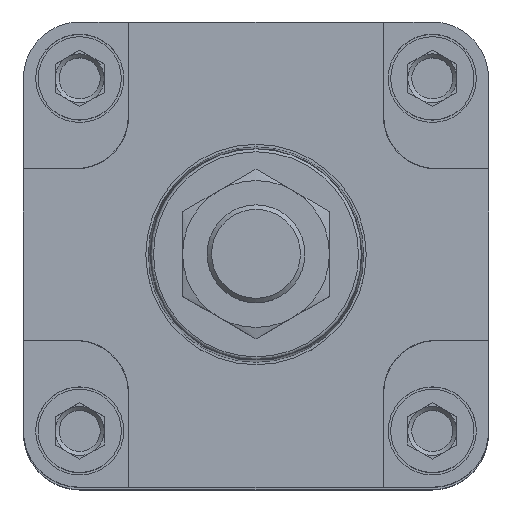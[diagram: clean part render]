
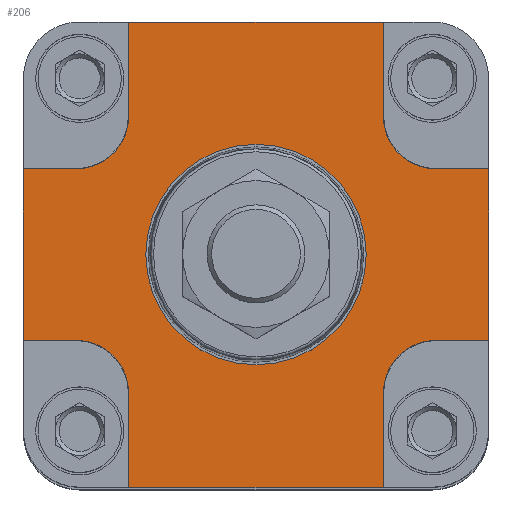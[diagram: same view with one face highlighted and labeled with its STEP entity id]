
A CAD part, top view. The second image highlights one B-rep face of the part: STEP entity #206.
In plain terms, the highlighted planar face has unit normal (0, 0, 1) as drawn and (0, 0, -1) by its records, which use the part's own axes.
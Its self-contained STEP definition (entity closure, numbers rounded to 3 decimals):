
#206 = ADVANCED_FACE( '', ( #605, #606 ), #607, .F. );
#605 = FACE_BOUND( '', #1496, .T. );
#606 = FACE_OUTER_BOUND( '', #1497, .T. );
#607 = PLANE( '', #1498 );
#1496 = EDGE_LOOP( '', ( #2386 ) );
#1497 = EDGE_LOOP( '', ( #2387, #2388, #2389, #2390, #2391, #2392, #2393, #2394, #2395, #2396, #2397, #2398, #2399, #2400, #2401, #2402 ) );
#1498 = AXIS2_PLACEMENT_3D( '', #2403, #2404, #2405 );
#2386 = ORIENTED_EDGE( '', *, *, #5417, .F. );
#2387 = ORIENTED_EDGE( '', *, *, #5418, .F. );
#2388 = ORIENTED_EDGE( '', *, *, #5419, .F. );
#2389 = ORIENTED_EDGE( '', *, *, #5420, .T. );
#2390 = ORIENTED_EDGE( '', *, *, #5421, .F. );
#2391 = ORIENTED_EDGE( '', *, *, #5422, .F. );
#2392 = ORIENTED_EDGE( '', *, *, #5423, .F. );
#2393 = ORIENTED_EDGE( '', *, *, #5424, .T. );
#2394 = ORIENTED_EDGE( '', *, *, #5425, .F. );
#2395 = ORIENTED_EDGE( '', *, *, #5426, .F. );
#2396 = ORIENTED_EDGE( '', *, *, #5427, .F. );
#2397 = ORIENTED_EDGE( '', *, *, #5428, .T. );
#2398 = ORIENTED_EDGE( '', *, *, #5429, .F. );
#2399 = ORIENTED_EDGE( '', *, *, #5430, .F. );
#2400 = ORIENTED_EDGE( '', *, *, #5431, .F. );
#2401 = ORIENTED_EDGE( '', *, *, #5432, .T. );
#2402 = ORIENTED_EDGE( '', *, *, #5433, .F. );
#2403 = CARTESIAN_POINT( '', ( -36., -36., -328. ) );
#2404 = DIRECTION( '', ( 0., 0., 1. ) );
#2405 = DIRECTION( '', ( 1., 0., 0. ) );
#5417 = EDGE_CURVE( '', #6337, #6337, #6338, .F. );
#5418 = EDGE_CURVE( '', #6339, #6340, #6341, .T. );
#5419 = EDGE_CURVE( '', #6342, #6339, #6343, .T. );
#5420 = EDGE_CURVE( '', #6342, #6344, #6345, .T. );
#5421 = EDGE_CURVE( '', #6346, #6344, #6347, .T. );
#5422 = EDGE_CURVE( '', #6348, #6346, #6349, .T. );
#5423 = EDGE_CURVE( '', #6350, #6348, #6351, .T. );
#5424 = EDGE_CURVE( '', #6350, #6352, #6353, .T. );
#5425 = EDGE_CURVE( '', #6354, #6352, #6355, .T. );
#5426 = EDGE_CURVE( '', #6356, #6354, #6357, .T. );
#5427 = EDGE_CURVE( '', #6358, #6356, #6359, .T. );
#5428 = EDGE_CURVE( '', #6358, #6360, #6361, .T. );
#5429 = EDGE_CURVE( '', #6362, #6360, #6363, .T. );
#5430 = EDGE_CURVE( '', #6364, #6362, #6365, .T. );
#5431 = EDGE_CURVE( '', #6366, #6364, #6367, .T. );
#5432 = EDGE_CURVE( '', #6366, #6368, #6369, .T. );
#5433 = EDGE_CURVE( '', #6340, #6368, #6370, .T. );
#6337 = VERTEX_POINT( '', #7878 );
#6338 = CIRCLE( '', #7879, 22.5 );
#6339 = VERTEX_POINT( '', #7880 );
#6340 = VERTEX_POINT( '', #7881 );
#6341 = LINE( '', #7882, #7883 );
#6342 = VERTEX_POINT( '', #7884 );
#6343 = LINE( '', #7885, #7886 );
#6344 = VERTEX_POINT( '', #7887 );
#6345 = CIRCLE( '', #7888, 10.8 );
#6346 = VERTEX_POINT( '', #7889 );
#6347 = LINE( '', #7890, #7891 );
#6348 = VERTEX_POINT( '', #7892 );
#6349 = LINE( '', #7893, #7894 );
#6350 = VERTEX_POINT( '', #7895 );
#6351 = LINE( '', #7896, #7897 );
#6352 = VERTEX_POINT( '', #7898 );
#6353 = CIRCLE( '', #7899, 10.8 );
#6354 = VERTEX_POINT( '', #7900 );
#6355 = LINE( '', #7901, #7902 );
#6356 = VERTEX_POINT( '', #7903 );
#6357 = LINE( '', #7904, #7905 );
#6358 = VERTEX_POINT( '', #7906 );
#6359 = LINE( '', #7907, #7908 );
#6360 = VERTEX_POINT( '', #7909 );
#6361 = CIRCLE( '', #7910, 10.8 );
#6362 = VERTEX_POINT( '', #7911 );
#6363 = LINE( '', #7912, #7913 );
#6364 = VERTEX_POINT( '', #7914 );
#6365 = LINE( '', #7915, #7916 );
#6366 = VERTEX_POINT( '', #7917 );
#6367 = LINE( '', #7918, #7919 );
#6368 = VERTEX_POINT( '', #7920 );
#6369 = CIRCLE( '', #7921, 10.8 );
#6370 = LINE( '', #7922, #7923 );
#7878 = CARTESIAN_POINT( '', ( 22.5, 0., -328. ) );
#7879 = AXIS2_PLACEMENT_3D( '', #10171, #10172, #10173 );
#7880 = CARTESIAN_POINT( '', ( -47.5, 17.5, -328. ) );
#7881 = CARTESIAN_POINT( '', ( -47.5, -17.5, -328. ) );
#7882 = CARTESIAN_POINT( '', ( -47.5, 36., -328. ) );
#7883 = VECTOR( '', #10174, 1000. );
#7884 = CARTESIAN_POINT( '', ( -36.8, 17.5, -328. ) );
#7885 = CARTESIAN_POINT( '', ( -36.8, 17.5, -328. ) );
#7886 = VECTOR( '', #10175, 1000. );
#7887 = CARTESIAN_POINT( '', ( -26., 28.3, -328. ) );
#7888 = AXIS2_PLACEMENT_3D( '', #10176, #10177, #10178 );
#7889 = CARTESIAN_POINT( '', ( -26., 47.5, -328. ) );
#7890 = CARTESIAN_POINT( '', ( -26., 47.5, -328. ) );
#7891 = VECTOR( '', #10179, 1000. );
#7892 = CARTESIAN_POINT( '', ( 26., 47.5, -328. ) );
#7893 = CARTESIAN_POINT( '', ( 36., 47.5, -328. ) );
#7894 = VECTOR( '', #10180, 1000. );
#7895 = CARTESIAN_POINT( '', ( 26., 28.3, -328. ) );
#7896 = CARTESIAN_POINT( '', ( 26., 28.3, -328. ) );
#7897 = VECTOR( '', #10181, 1000. );
#7898 = CARTESIAN_POINT( '', ( 36.8, 17.5, -328. ) );
#7899 = AXIS2_PLACEMENT_3D( '', #10182, #10183, #10184 );
#7900 = CARTESIAN_POINT( '', ( 47.5, 17.5, -328. ) );
#7901 = CARTESIAN_POINT( '', ( 47.5, 17.5, -328. ) );
#7902 = VECTOR( '', #10185, 1000. );
#7903 = CARTESIAN_POINT( '', ( 47.5, -17.5, -328. ) );
#7904 = CARTESIAN_POINT( '', ( 47.5, -36., -328. ) );
#7905 = VECTOR( '', #10186, 1000. );
#7906 = CARTESIAN_POINT( '', ( 36.8, -17.5, -328. ) );
#7907 = CARTESIAN_POINT( '', ( 36.8, -17.5, -328. ) );
#7908 = VECTOR( '', #10187, 1000. );
#7909 = CARTESIAN_POINT( '', ( 26., -28.3, -328. ) );
#7910 = AXIS2_PLACEMENT_3D( '', #10188, #10189, #10190 );
#7911 = CARTESIAN_POINT( '', ( 26., -47.5, -328. ) );
#7912 = CARTESIAN_POINT( '', ( 26., -47.5, -328. ) );
#7913 = VECTOR( '', #10191, 1000. );
#7914 = CARTESIAN_POINT( '', ( -26., -47.5, -328. ) );
#7915 = CARTESIAN_POINT( '', ( -36., -47.5, -328. ) );
#7916 = VECTOR( '', #10192, 1000. );
#7917 = CARTESIAN_POINT( '', ( -26., -28.3, -328. ) );
#7918 = CARTESIAN_POINT( '', ( -26., -28.3, -328. ) );
#7919 = VECTOR( '', #10193, 1000. );
#7920 = CARTESIAN_POINT( '', ( -36.8, -17.5, -328. ) );
#7921 = AXIS2_PLACEMENT_3D( '', #10194, #10195, #10196 );
#7922 = CARTESIAN_POINT( '', ( -47.5, -17.5, -328. ) );
#7923 = VECTOR( '', #10197, 1000. );
#10171 = CARTESIAN_POINT( '', ( 0., 0., -328. ) );
#10172 = DIRECTION( '', ( 0., 0., 1. ) );
#10173 = DIRECTION( '', ( 1., 0., 0. ) );
#10174 = DIRECTION( '', ( 0., -1., 0. ) );
#10175 = DIRECTION( '', ( -1., 0., 0. ) );
#10176 = CARTESIAN_POINT( '', ( -36.8, 28.3, -328. ) );
#10177 = DIRECTION( '', ( 0., 0., 1. ) );
#10178 = DIRECTION( '', ( 1., 0., 0. ) );
#10179 = DIRECTION( '', ( 0., -1., 0. ) );
#10180 = DIRECTION( '', ( -1., 0., 0. ) );
#10181 = DIRECTION( '', ( 0., 1., 0. ) );
#10182 = CARTESIAN_POINT( '', ( 36.8, 28.3, -328. ) );
#10183 = DIRECTION( '', ( 0., 0., 1. ) );
#10184 = DIRECTION( '', ( 1., 0., 0. ) );
#10185 = DIRECTION( '', ( -1., 0., 0. ) );
#10186 = DIRECTION( '', ( 0., 1., 0. ) );
#10187 = DIRECTION( '', ( 1., 0., 0. ) );
#10188 = CARTESIAN_POINT( '', ( 36.8, -28.3, -328. ) );
#10189 = DIRECTION( '', ( 0., 0., 1. ) );
#10190 = DIRECTION( '', ( 1., 0., 0. ) );
#10191 = DIRECTION( '', ( 0., 1., 0. ) );
#10192 = DIRECTION( '', ( 1., 0., 0. ) );
#10193 = DIRECTION( '', ( 0., -1., 0. ) );
#10194 = CARTESIAN_POINT( '', ( -36.8, -28.3, -328. ) );
#10195 = DIRECTION( '', ( 0., 0., 1. ) );
#10196 = DIRECTION( '', ( 1., 0., 0. ) );
#10197 = DIRECTION( '', ( 1., 0., 0. ) );
